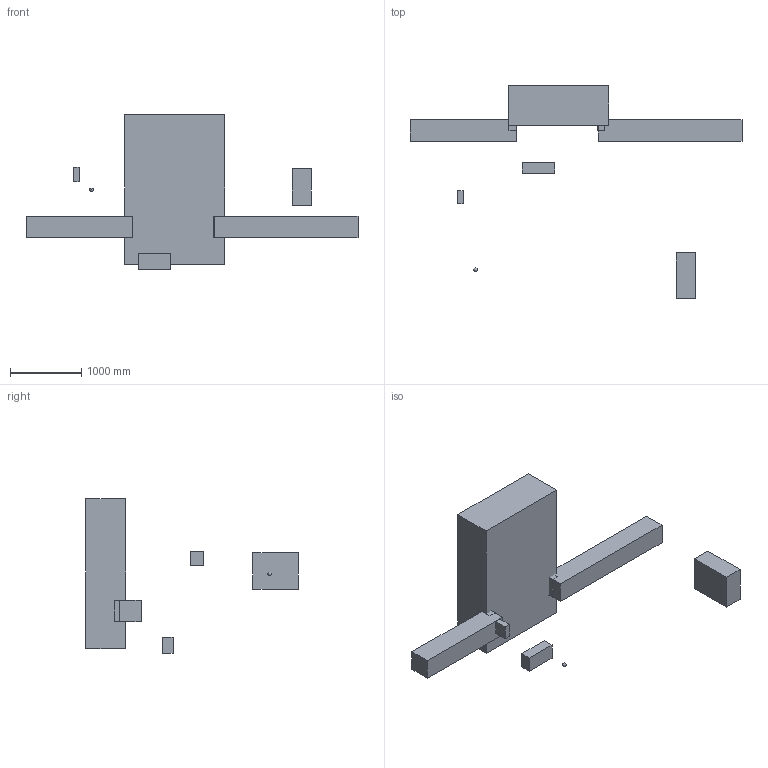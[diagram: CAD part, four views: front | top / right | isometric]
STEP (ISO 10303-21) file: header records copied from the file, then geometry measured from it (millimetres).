
FILE_DESCRIPTION(/* description */ (''),/* implementation_level */ '2;1');
FILE_NAME(/* name */ 'SV105_P63_service_space_simplified',/* time_stamp */ '2008-02-12T20:38:57+05:00',/* author */ (''),/* organization */ (''),/* preprocessor_version */ 'ST-DEVELOPER v9',/* originating_system */ 'UGS - NX 4.0',/* authorisation */ '');
FILE_SCHEMA (('CONFIG_CONTROL_DESIGN','SHAPE_APPEARANCE_LAYER_MIM'));
Length unit declared in the file: millimetre
Products named in the file (7): SV105_P63_service_space_gear_pump_simplified; SV105_P63_service_space_lp_filter_simplified; SV105_P63_service_space_cooler_simplified; SV105_P63_service_space_cooler_anode_exchange_simp; SV105_P63_service_space_gear_housing_top_simplifie; SV105_P63_service_space_od_box_simplified; SV105_P63_service_space_simplified
Assembly tree (6 placements, depth 2):
  SV105_P63_service_space_simplified
    SV105_P63_service_space_od_box_simplified
    SV105_P63_service_space_gear_housing_top_simplifie
    SV105_P63_service_space_cooler_anode_exchange_simp
    SV105_P63_service_space_cooler_simplified
    SV105_P63_service_space_lp_filter_simplified
    SV105_P63_service_space_gear_pump_simplified
Bounding box: 4644 x 2976.13 x 2167.72 mm (x, y, z)
Volume: 2084076641.6 mm3; surface area: 16697276.2 mm2
Topology: 9 solids, 9 shells, 49 faces, 842 edges, 1355 vertices
Faces by surface type: plane 48, sphere 1
Entity records: 14932 total; most frequent: CARTESIAN_POINT 8703, STYLED_ITEM 752, PRESENTATION_STYLE_ASSIGNMENT 752, CURVE_STYLE 743, DRAUGHTING_PRE_DEFINED_CURVE_FONT 743, B_SPLINE_CURVE_WITH_KNOTS 529, DIRECTION 422, LINE 310
